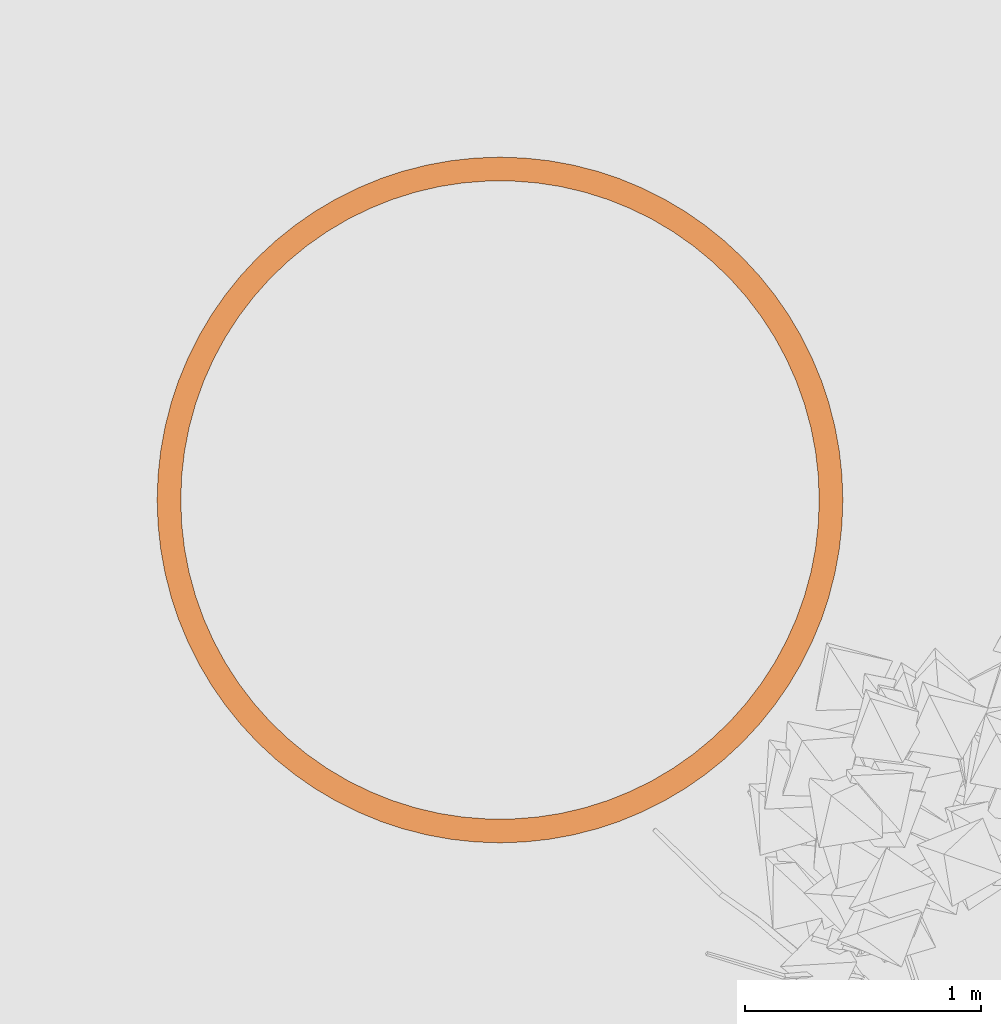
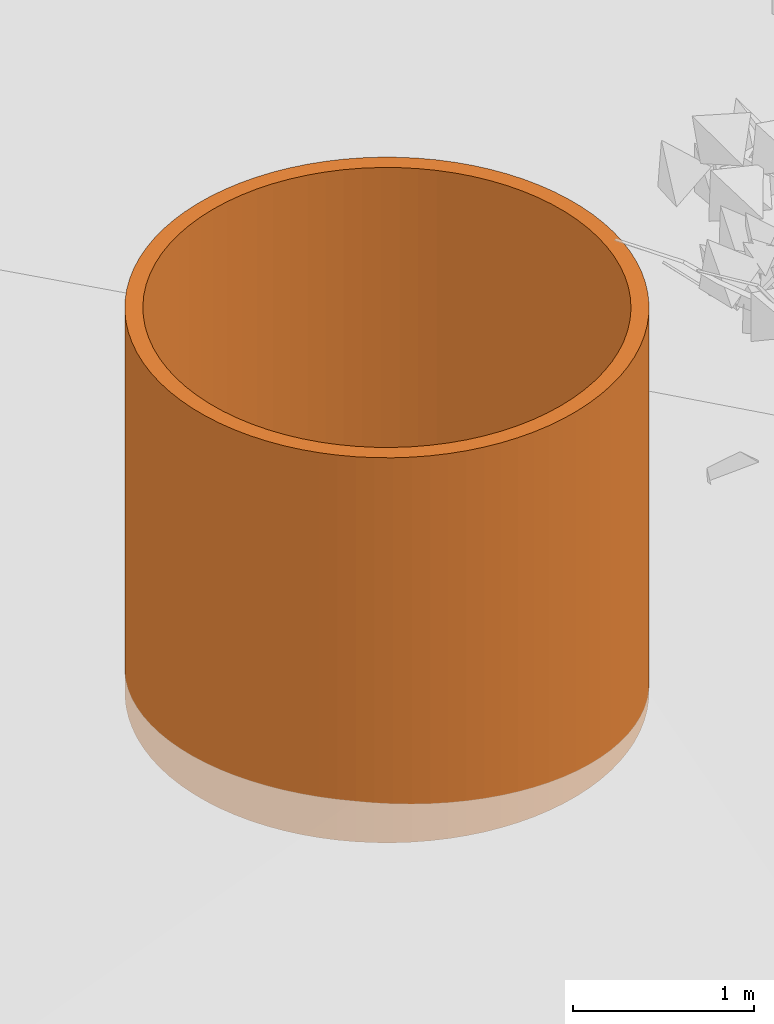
# One storey, part 239 of 246: 1 proxy.
"""IFC2X3 building model written with IfcOpenShell, lengths in millimetres."""

from ifc_helpers import new_model, entity, si_unit, converted_unit, derived_unit, money_unit, direction, frame, origin_with_axes, place, context, subcontext, project, spatial, faceted_brep, material, type_object, element, save


model = new_model("IFC2X3")

# Units and contexts
model_context = context("Model", 3, precision=0.01, world=origin_with_axes(), true_north=direction((0.0, 1.0)))
body_context = subcontext(model_context, "Body", "Model", "MODEL_VIEW")
ifc_project = project(units=[si_unit("LENGTHUNIT", "METRE", prefix="MILLI"), si_unit("AREAUNIT", "SQUARE_METRE"), si_unit("VOLUMEUNIT", "CUBIC_METRE"), converted_unit("PLANEANGLEUNIT", "DEGREE", entity("IfcPlaneAngleMeasure", 0.0174532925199), si_unit("PLANEANGLEUNIT", "RADIAN"), dimensions=[0, 0, 0, 0, 0, 0, 0]), si_unit("SOLIDANGLEUNIT", "STERADIAN"), money_unit("EUR"), converted_unit("TIMEUNIT", "Year", entity("IfcTimeMeasure", 31556926.0), si_unit("TIMEUNIT", "SECOND"), dimensions=[0, 0, 1, 0, 0, 0, 0]), si_unit("MASSUNIT", "GRAM", prefix="KILO"), si_unit("THERMODYNAMICTEMPERATUREUNIT", "DEGREE_CELSIUS"), si_unit("LUMINOUSINTENSITYUNIT", "LUMEN"), si_unit("ENERGYUNIT", "JOULE", prefix="MEGA"), derived_unit("THERMALCONDUCTANCEUNIT", [(si_unit("POWERUNIT", "WATT"), 1), (si_unit("LENGTHUNIT", "METRE"), -1), (si_unit("THERMODYNAMICTEMPERATUREUNIT", "KELVIN"), -1)]), derived_unit("SPECIFICHEATCAPACITYUNIT", [(si_unit("ENERGYUNIT", "JOULE"), 1), (si_unit("MASSUNIT", "GRAM", prefix="KILO"), -1), (si_unit("THERMODYNAMICTEMPERATUREUNIT", "KELVIN"), -1)]), derived_unit("MASSDENSITYUNIT", [(si_unit("MASSUNIT", "GRAM", prefix="KILO"), 1), (si_unit("VOLUMEUNIT", "CUBIC_METRE"), -1)])], contexts=[model_context])

# Site, building, storey
site_placement = place(None, origin_with_axes())
site = spatial("IfcSite", under=ifc_project, at=site_placement, Name="L.Koidula tn 11b", CompositionType="ELEMENT")
building_placement = place(site_placement, origin_with_axes())
building = spatial("IfcBuilding", under=site, at=building_placement, Name="Rakvere Riigigümnaasium", CompositionType="ELEMENT")
storey_placement = place(building_placement, origin_with_axes())
storey = spatial("IfcBuildingStorey", under=building, at=storey_placement, Name="1.korrus 0,00", CompositionType="ELEMENT", Elevation=0.0)

# Proxy
ifc_material = material(Name="Alumiiniumprofiil (RAL 7021)")
building_element_proxy_type = type_object("IfcBuildingElementProxyType", Name="Air Space D2900", PredefinedType="NOTDEFINED")
proxy_placement = place(storey_placement, frame((88335.994239, 27712.030434, 3019.39704526), z_axis=(0.0, 0.0, 1.0), x_axis=(1.0, 0.0, 0.0)))
element("IfcBuildingElementProxy", 1, at=proxy_placement, inside=storey, type_object=building_element_proxy_type, material=ifc_material, Name="Ventilatsiooni korsten", context=body_context, shape_type="Brep", body=[
    faceted_brep([(-1450.0, 0.0, 0.0), (-1446.30556618, -103.441815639, 0.0), (-1446.30556618, -103.441815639, 2600.0), (-1450.0, 0.0, 2600.0), (-1446.30556618, 103.441815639, 0.0), (-1435.24109073, 206.356515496, 0.0), (-1416.86295566, 308.219669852, 0.0), (-1391.26481174, 408.51220742, 0.0), (-1358.57710125, 506.723060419, 0.0), (-1318.96639326, 602.351768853, 0.0), (-1272.63453487, 694.911030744, 0.0), (-1219.81762261, 783.929185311, 0.0), (-1160.78479934, 868.952616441, 0.0), (-1095.83688281, 949.548064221, 0.0), (-1025.30483272, 1025.30483272, 0.0), (-949.548064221, 1095.83688281, 0.0), (-868.952616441, 1160.78479934, 0.0), (-783.929185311, 1219.81762261, 0.0), (-694.911030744, 1272.63453487, 0.0), (-602.351768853, 1318.96639326, 0.0), (-506.723060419, 1358.57710125, 0.0), (-408.51220742, 1391.26481174, 0.0), (-308.219669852, 1416.86295566, 0.0), (-206.356515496, 1435.24109073, 0.0), (-103.441815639, 1446.30556618, 0.0), (0.0, 1450.0, 0.0), (103.441815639, 1446.30556618, 0.0), (206.356515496, 1435.24109073, 0.0), (308.219669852, 1416.86295566, 0.0), (408.51220742, 1391.26481174, 0.0), (506.723060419, 1358.57710125, 0.0), (602.351768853, 1318.96639326, 0.0), (694.911030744, 1272.63453487, 0.0), (783.929185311, 1219.81762261, 0.0), (868.952616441, 1160.78479934, 0.0), (949.548064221, 1095.83688281, 0.0), (1025.30483272, 1025.30483272, 0.0), (1095.83688281, 949.548064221, 0.0), (1160.78479934, 868.952616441, 0.0), (1219.81762261, 783.929185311, 0.0), (1272.63453487, 694.911030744, 0.0), (1318.96639326, 602.351768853, 0.0), (1358.57710125, 506.723060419, 0.0), (1391.26481174, 408.51220742, 0.0), (1416.86295566, 308.219669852, 0.0), (1435.24109073, 206.356515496, 0.0), (1446.30556618, 103.441815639, 0.0), (1450.0, 0.0, 0.0), (1446.30556618, -103.441815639, 0.0), (1435.24109073, -206.356515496, 0.0), (1416.86295566, -308.219669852, 0.0), (1391.26481174, -408.51220742, 0.0), (1358.57710125, -506.723060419, 0.0), (1318.96639326, -602.351768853, 0.0), (1272.63453487, -694.911030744, 0.0), (1219.81762261, -783.929185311, 0.0), (1160.78479934, -868.952616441, 0.0), (1095.83688281, -949.548064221, 0.0), (1025.30483272, -1025.30483272, 0.0), (949.548064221, -1095.83688281, 0.0), (868.952616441, -1160.78479934, 0.0), (783.929185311, -1219.81762261, 0.0), (694.911030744, -1272.63453487, 0.0), (602.351768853, -1318.96639326, 0.0), (506.723060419, -1358.57710125, 0.0), (408.51220742, -1391.26481174, 0.0), (308.219669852, -1416.86295566, 0.0), (206.356515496, -1435.24109073, 0.0), (103.441815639, -1446.30556618, 0.0), (0.0, -1450.0, 0.0), (-103.441815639, -1446.30556618, 0.0), (-206.356515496, -1435.24109073, 0.0), (-308.219669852, -1416.86295566, 0.0), (-408.51220742, -1391.26481174, 0.0), (-506.723060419, -1358.57710125, 0.0), (-602.351768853, -1318.96639326, 0.0), (-694.911030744, -1272.63453487, 0.0), (-783.929185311, -1219.81762261, 0.0), (-868.952616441, -1160.78479934, 0.0), (-949.548064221, -1095.83688281, 0.0), (-1025.30483272, -1025.30483272, 0.0), (-1095.83688281, -949.548064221, 0.0), (-1160.78479934, -868.952616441, 0.0), (-1219.81762261, -783.929185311, 0.0), (-1272.63453487, -694.911030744, 0.0), (-1318.96639326, -602.351768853, 0.0), (-1358.57710125, -506.723060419, 0.0), (-1391.26481174, -408.51220742, 0.0), (-1416.86295566, -308.219669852, 0.0), (-1435.24109073, -206.356515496, 0.0), (-1350.0, 0.0, 0.0), (-1346.0388316, -103.341491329, 0.0), (-1334.1785721, -206.076533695, 0.0), (-1314.48882224, -307.602237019, 0.0), (-1287.08512927, -407.322808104, 0.0), (-1252.12830899, -504.653046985, 0.0), (-1209.8235019, -599.02178112, 0.0), (-1160.41896943, -689.875217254, 0.0), (-1104.20463704, -776.680191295, 0.0), (-1041.51039276, -858.927297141, 0.0), (-972.704151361, -936.13387607, 0.0), (-898.189695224, -1007.84684918, 0.0), (-818.404304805, -1073.64537622, 0.0), (-733.816192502, -1133.14332528, 0.0), (-644.921754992, -1185.99153873, 0.0), (-552.242660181, -1231.87988224, 0.0), (-456.322785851, -1270.53906477, 0.0), (-357.725027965, -1301.74221886, 0.0), (-257.027997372, -1325.306232, 0.0), (-154.822624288, -1341.09282118, 0.0), (-51.7086904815, -1349.00934442, 0.0), (51.7086904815, -1349.00934442, 0.0), (154.822624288, -1341.09282118, 0.0), (257.027997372, -1325.306232, 0.0), (357.725027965, -1301.74221886, 0.0), (456.322785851, -1270.53906477, 0.0), (552.242660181, -1231.87988224, 0.0), (644.921754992, -1185.99153873, 0.0), (733.816192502, -1133.14332528, 0.0), (818.404304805, -1073.64537622, 0.0), (898.189695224, -1007.84684918, 0.0), (972.704151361, -936.13387607, 0.0), (1041.51039276, -858.927297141, 0.0), (1104.20463704, -776.680191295, 0.0), (1160.41896943, -689.875217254, 0.0), (1209.8235019, -599.02178112, 0.0), (1252.12830899, -504.653046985, 0.0), (1287.08512927, -407.322808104, 0.0), (1314.48882224, -307.602237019, 0.0), (1334.1785721, -206.076533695, 0.0), (1346.0388316, -103.341491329, 0.0), (1350.0, 0.0, 0.0), (1346.0388316, 103.341491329, 0.0), (1334.1785721, 206.076533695, 0.0), (1314.48882224, 307.602237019, 0.0), (1287.08512927, 407.322808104, 0.0), (1252.12830899, 504.653046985, 0.0), (1209.8235019, 599.02178112, 0.0), (1160.41896943, 689.875217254, 0.0), (1104.20463704, 776.680191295, 0.0), (1041.51039276, 858.927297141, 0.0), (972.704151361, 936.13387607, 0.0), (898.189695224, 1007.84684918, 0.0), (818.404304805, 1073.64537622, 0.0), (733.816192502, 1133.14332528, 0.0), (644.921754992, 1185.99153873, 0.0), (552.242660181, 1231.87988224, 0.0), (456.322785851, 1270.53906477, 0.0), (357.725027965, 1301.74221886, 0.0), (257.027997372, 1325.306232, 0.0), (154.822624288, 1341.09282118, 0.0), (51.7086904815, 1349.00934442, 0.0), (-51.7086904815, 1349.00934442, 0.0), (-154.822624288, 1341.09282118, 0.0), (-257.027997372, 1325.306232, 0.0), (-357.725027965, 1301.74221886, 0.0), (-456.322785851, 1270.53906477, 0.0), (-552.242660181, 1231.87988224, 0.0), (-644.921754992, 1185.99153873, 0.0), (-733.816192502, 1133.14332528, 0.0), (-818.404304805, 1073.64537622, 0.0), (-898.189695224, 1007.84684918, 0.0), (-972.704151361, 936.13387607, 0.0), (-1041.51039276, 858.927297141, 0.0), (-1104.20463704, 776.680191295, 0.0), (-1160.41896943, 689.875217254, 0.0), (-1209.8235019, 599.02178112, 0.0), (-1252.12830899, 504.653046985, 0.0), (-1287.08512927, 407.322808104, 0.0), (-1314.48882224, 307.602237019, 0.0), (-1334.1785721, 206.076533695, 0.0), (-1346.0388316, 103.341491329, 0.0), (-1435.24109073, -206.356515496, 2600.0), (-1416.86295566, -308.219669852, 2600.0), (-1391.26481174, -408.51220742, 2600.0), (-1358.57710125, -506.723060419, 2600.0), (-1318.96639326, -602.351768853, 2600.0), (-1272.63453487, -694.911030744, 2600.0), (-1219.81762261, -783.929185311, 2600.0), (-1160.78479934, -868.952616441, 2600.0), (-1095.83688281, -949.548064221, 2600.0), (-1025.30483272, -1025.30483272, 2600.0), (-949.548064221, -1095.83688281, 2600.0), (-868.952616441, -1160.78479934, 2600.0), (-783.929185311, -1219.81762261, 2600.0), (-694.911030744, -1272.63453487, 2600.0), (-602.351768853, -1318.96639326, 2600.0), (-506.723060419, -1358.57710125, 2600.0), (-408.51220742, -1391.26481174, 2600.0), (-308.219669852, -1416.86295566, 2600.0), (-206.356515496, -1435.24109073, 2600.0), (-103.441815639, -1446.30556618, 2600.0), (0.0, -1450.0, 2600.0), (103.441815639, -1446.30556618, 2600.0), (206.356515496, -1435.24109073, 2600.0), (308.219669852, -1416.86295566, 2600.0), (408.51220742, -1391.26481174, 2600.0), (506.723060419, -1358.57710125, 2600.0), (602.351768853, -1318.96639326, 2600.0), (694.911030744, -1272.63453487, 2600.0), (783.929185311, -1219.81762261, 2600.0), (868.952616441, -1160.78479934, 2600.0), (949.548064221, -1095.83688281, 2600.0), (1025.30483272, -1025.30483272, 2600.0), (1095.83688281, -949.548064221, 2600.0), (1160.78479934, -868.952616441, 2600.0), (1219.81762261, -783.929185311, 2600.0), (1272.63453487, -694.911030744, 2600.0), (1318.96639326, -602.351768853, 2600.0), (1358.57710125, -506.723060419, 2600.0), (1391.26481174, -408.51220742, 2600.0), (1416.86295566, -308.219669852, 2600.0), (1435.24109073, -206.356515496, 2600.0), (1446.30556618, -103.441815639, 2600.0), (1450.0, 0.0, 2600.0), (1446.30556618, 103.441815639, 2600.0), (1435.24109073, 206.356515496, 2600.0), (1416.86295566, 308.219669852, 2600.0), (1391.26481174, 408.51220742, 2600.0), (1358.57710125, 506.723060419, 2600.0), (1318.96639326, 602.351768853, 2600.0), (1272.63453487, 694.911030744, 2600.0), (1219.81762261, 783.929185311, 2600.0), (1160.78479934, 868.952616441, 2600.0), (1095.83688281, 949.548064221, 2600.0), (1025.30483272, 1025.30483272, 2600.0), (949.548064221, 1095.83688281, 2600.0), (868.952616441, 1160.78479934, 2600.0), (783.929185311, 1219.81762261, 2600.0), (694.911030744, 1272.63453487, 2600.0), (602.351768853, 1318.96639326, 2600.0), (506.723060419, 1358.57710125, 2600.0), (408.51220742, 1391.26481174, 2600.0), (308.219669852, 1416.86295566, 2600.0), (206.356515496, 1435.24109073, 2600.0), (103.441815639, 1446.30556618, 2600.0), (0.0, 1450.0, 2600.0), (-103.441815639, 1446.30556618, 2600.0), (-206.356515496, 1435.24109073, 2600.0), (-308.219669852, 1416.86295566, 2600.0), (-408.51220742, 1391.26481174, 2600.0), (-506.723060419, 1358.57710125, 2600.0), (-602.351768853, 1318.96639326, 2600.0), (-694.911030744, 1272.63453487, 2600.0), (-783.929185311, 1219.81762261, 2600.0), (-868.952616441, 1160.78479934, 2600.0), (-949.548064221, 1095.83688281, 2600.0), (-1025.30483272, 1025.30483272, 2600.0), (-1095.83688281, 949.548064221, 2600.0), (-1160.78479934, 868.952616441, 2600.0), (-1219.81762261, 783.929185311, 2600.0), (-1272.63453487, 694.911030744, 2600.0), (-1318.96639326, 602.351768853, 2600.0), (-1358.57710125, 506.723060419, 2600.0), (-1391.26481174, 408.51220742, 2600.0), (-1416.86295566, 308.219669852, 2600.0), (-1435.24109073, 206.356515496, 2600.0), (-1446.30556618, 103.441815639, 2600.0), (-1350.0, 0.0, 2600.0), (-1346.0388316, 103.341491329, 2600.0), (-1334.1785721, 206.076533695, 2600.0), (-1314.48882224, 307.602237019, 2600.0), (-1287.08512927, 407.322808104, 2600.0), (-1252.12830899, 504.653046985, 2600.0), (-1209.8235019, 599.02178112, 2600.0), (-1160.41896943, 689.875217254, 2600.0), (-1104.20463704, 776.680191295, 2600.0), (-1041.51039276, 858.927297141, 2600.0), (-972.704151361, 936.13387607, 2600.0), (-898.189695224, 1007.84684918, 2600.0), (-818.404304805, 1073.64537622, 2600.0), (-733.816192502, 1133.14332528, 2600.0), (-644.921754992, 1185.99153873, 2600.0), (-552.242660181, 1231.87988224, 2600.0), (-456.322785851, 1270.53906477, 2600.0), (-357.725027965, 1301.74221886, 2600.0), (-257.027997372, 1325.306232, 2600.0), (-154.822624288, 1341.09282118, 2600.0), (-51.7086904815, 1349.00934442, 2600.0), (51.7086904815, 1349.00934442, 2600.0), (154.822624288, 1341.09282118, 2600.0), (257.027997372, 1325.306232, 2600.0), (357.725027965, 1301.74221886, 2600.0), (456.322785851, 1270.53906477, 2600.0), (552.242660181, 1231.87988224, 2600.0), (644.921754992, 1185.99153873, 2600.0), (733.816192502, 1133.14332528, 2600.0), (818.404304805, 1073.64537622, 2600.0), (898.189695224, 1007.84684918, 2600.0), (972.704151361, 936.13387607, 2600.0), (1041.51039276, 858.927297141, 2600.0), (1104.20463704, 776.680191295, 2600.0), (1160.41896943, 689.875217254, 2600.0), (1209.8235019, 599.02178112, 2600.0), (1252.12830899, 504.653046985, 2600.0), (1287.08512927, 407.322808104, 2600.0), (1314.48882224, 307.602237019, 2600.0), (1334.1785721, 206.076533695, 2600.0), (1346.0388316, 103.341491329, 2600.0), (1350.0, 0.0, 2600.0), (1346.0388316, -103.341491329, 2600.0), (1334.1785721, -206.076533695, 2600.0), (1314.48882224, -307.602237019, 2600.0), (1287.08512927, -407.322808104, 2600.0), (1252.12830899, -504.653046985, 2600.0), (1209.8235019, -599.02178112, 2600.0), (1160.41896943, -689.875217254, 2600.0), (1104.20463704, -776.680191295, 2600.0), (1041.51039276, -858.927297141, 2600.0), (972.704151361, -936.13387607, 2600.0), (898.189695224, -1007.84684918, 2600.0), (818.404304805, -1073.64537622, 2600.0), (733.816192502, -1133.14332528, 2600.0), (644.921754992, -1185.99153873, 2600.0), (552.242660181, -1231.87988224, 2600.0), (456.322785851, -1270.53906477, 2600.0), (357.725027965, -1301.74221886, 2600.0), (257.027997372, -1325.306232, 2600.0), (154.822624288, -1341.09282118, 2600.0), (51.7086904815, -1349.00934442, 2600.0), (-51.7086904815, -1349.00934442, 2600.0), (-154.822624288, -1341.09282118, 2600.0), (-257.027997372, -1325.306232, 2600.0), (-357.725027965, -1301.74221886, 2600.0), (-456.322785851, -1270.53906477, 2600.0), (-552.242660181, -1231.87988224, 2600.0), (-644.921754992, -1185.99153873, 2600.0), (-733.816192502, -1133.14332528, 2600.0), (-818.404304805, -1073.64537622, 2600.0), (-898.189695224, -1007.84684918, 2600.0), (-972.704151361, -936.13387607, 2600.0), (-1041.51039276, -858.927297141, 2600.0), (-1104.20463704, -776.680191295, 2600.0), (-1160.41896943, -689.875217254, 2600.0), (-1209.8235019, -599.02178112, 2600.0), (-1252.12830899, -504.653046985, 2600.0), (-1287.08512927, -407.322808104, 2600.0), (-1314.48882224, -307.602237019, 2600.0), (-1334.1785721, -206.076533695, 2600.0), (-1346.0388316, -103.341491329, 2600.0)], [[[0, 1, 2, 3]], [[0, 4, 5, 6, 7, 8, 9, 10, 11, 12, 13, 14, 15, 16, 17, 18, 19, 20, 21, 22, 23, 24, 25, 26, 27, 28, 29, 30, 31, 32, 33, 34, 35, 36, 37, 38, 39, 40, 41, 42, 43, 44, 45, 46, 47, 48, 49, 50, 51, 52, 53, 54, 55, 56, 57, 58, 59, 60, 61, 62, 63, 64, 65, 66, 67, 68, 69, 70, 71, 72, 73, 74, 75, 76, 77, 78, 79, 80, 81, 82, 83, 84, 85, 86, 87, 88, 89, 1], [90, 91, 92, 93, 94, 95, 96, 97, 98, 99, 100, 101, 102, 103, 104, 105, 106, 107, 108, 109, 110, 111, 112, 113, 114, 115, 116, 117, 118, 119, 120, 121, 122, 123, 124, 125, 126, 127, 128, 129, 130, 131, 132, 133, 134, 135, 136, 137, 138, 139, 140, 141, 142, 143, 144, 145, 146, 147, 148, 149, 150, 151, 152, 153, 154, 155, 156, 157, 158, 159, 160, 161, 162, 163, 164, 165, 166, 167, 168, 169, 170, 171]], [[1, 89, 172, 2]], [[3, 2, 172, 173, 174, 175, 176, 177, 178, 179, 180, 181, 182, 183, 184, 185, 186, 187, 188, 189, 190, 191, 192, 193, 194, 195, 196, 197, 198, 199, 200, 201, 202, 203, 204, 205, 206, 207, 208, 209, 210, 211, 212, 213, 214, 215, 216, 217, 218, 219, 220, 221, 222, 223, 224, 225, 226, 227, 228, 229, 230, 231, 232, 233, 234, 235, 236, 237, 238, 239, 240, 241, 242, 243, 244, 245, 246, 247, 248, 249, 250, 251, 252, 253, 254, 255, 256, 257], [258, 259, 260, 261, 262, 263, 264, 265, 266, 267, 268, 269, 270, 271, 272, 273, 274, 275, 276, 277, 278, 279, 280, 281, 282, 283, 284, 285, 286, 287, 288, 289, 290, 291, 292, 293, 294, 295, 296, 297, 298, 299, 300, 301, 302, 303, 304, 305, 306, 307, 308, 309, 310, 311, 312, 313, 314, 315, 316, 317, 318, 319, 320, 321, 322, 323, 324, 325, 326, 327, 328, 329, 330, 331, 332, 333, 334, 335, 336, 337, 338, 339]], [[4, 0, 3, 257]], [[5, 4, 257, 256]], [[6, 5, 256, 255]], [[7, 6, 255, 254]], [[8, 7, 254, 253]], [[9, 8, 253, 252]], [[10, 9, 252, 251]], [[11, 10, 251, 250]], [[12, 11, 250, 249]], [[13, 12, 249, 248]], [[14, 13, 248, 247]], [[15, 14, 247, 246]], [[16, 15, 246, 245]], [[17, 16, 245, 244]], [[18, 17, 244, 243]], [[19, 18, 243, 242]], [[20, 19, 242, 241]], [[21, 20, 241, 240]], [[22, 21, 240, 239]], [[23, 22, 239, 238]], [[24, 23, 238, 237]], [[25, 24, 237, 236]], [[26, 25, 236, 235]], [[27, 26, 235, 234]], [[28, 27, 234, 233]], [[29, 28, 233, 232]], [[30, 29, 232, 231]], [[31, 30, 231, 230]], [[32, 31, 230, 229]], [[33, 32, 229, 228]], [[34, 33, 228, 227]], [[35, 34, 227, 226]], [[36, 35, 226, 225]], [[37, 36, 225, 224]], [[38, 37, 224, 223]], [[39, 38, 223, 222]], [[40, 39, 222, 221]], [[41, 40, 221, 220]], [[42, 41, 220, 219]], [[43, 42, 219, 218]], [[44, 43, 218, 217]], [[45, 44, 217, 216]], [[46, 45, 216, 215]], [[47, 46, 215, 214]], [[48, 47, 214, 213]], [[49, 48, 213, 212]], [[50, 49, 212, 211]], [[51, 50, 211, 210]], [[52, 51, 210, 209]], [[53, 52, 209, 208]], [[54, 53, 208, 207]], [[55, 54, 207, 206]], [[56, 55, 206, 205]], [[57, 56, 205, 204]], [[58, 57, 204, 203]], [[59, 58, 203, 202]], [[60, 59, 202, 201]], [[61, 60, 201, 200]], [[62, 61, 200, 199]], [[63, 62, 199, 198]], [[64, 63, 198, 197]], [[65, 64, 197, 196]], [[66, 65, 196, 195]], [[67, 66, 195, 194]], [[68, 67, 194, 193]], [[69, 68, 193, 192]], [[70, 69, 192, 191]], [[71, 70, 191, 190]], [[72, 71, 190, 189]], [[73, 72, 189, 188]], [[74, 73, 188, 187]], [[75, 74, 187, 186]], [[76, 75, 186, 185]], [[77, 76, 185, 184]], [[78, 77, 184, 183]], [[79, 78, 183, 182]], [[80, 79, 182, 181]], [[81, 80, 181, 180]], [[82, 81, 180, 179]], [[83, 82, 179, 178]], [[84, 83, 178, 177]], [[85, 84, 177, 176]], [[86, 85, 176, 175]], [[87, 86, 175, 174]], [[88, 87, 174, 173]], [[89, 88, 173, 172]], [[91, 90, 258, 339]], [[92, 91, 339, 338]], [[93, 92, 338, 337]], [[94, 93, 337, 336]], [[95, 94, 336, 335]], [[96, 95, 335, 334]], [[97, 96, 334, 333]], [[98, 97, 333, 332]], [[99, 98, 332, 331]], [[100, 99, 331, 330]], [[101, 100, 330, 329]], [[102, 101, 329, 328]], [[103, 102, 328, 327]], [[104, 103, 327, 326]], [[105, 104, 326, 325]], [[106, 105, 325, 324]], [[107, 106, 324, 323]], [[108, 107, 323, 322]], [[109, 108, 322, 321]], [[110, 109, 321, 320]], [[111, 110, 320, 319]], [[112, 111, 319, 318]], [[113, 112, 318, 317]], [[114, 113, 317, 316]], [[115, 114, 316, 315]], [[116, 115, 315, 314]], [[117, 116, 314, 313]], [[118, 117, 313, 312]], [[119, 118, 312, 311]], [[120, 119, 311, 310]], [[121, 120, 310, 309]], [[122, 121, 309, 308]], [[123, 122, 308, 307]], [[124, 123, 307, 306]], [[125, 124, 306, 305]], [[126, 125, 305, 304]], [[127, 126, 304, 303]], [[128, 127, 303, 302]], [[129, 128, 302, 301]], [[130, 129, 301, 300]], [[131, 130, 300, 299]], [[132, 131, 299, 298]], [[133, 132, 298, 297]], [[134, 133, 297, 296]], [[135, 134, 296, 295]], [[136, 135, 295, 294]], [[137, 136, 294, 293]], [[138, 137, 293, 292]], [[139, 138, 292, 291]], [[140, 139, 291, 290]], [[141, 140, 290, 289]], [[142, 141, 289, 288]], [[143, 142, 288, 287]], [[144, 143, 287, 286]], [[145, 144, 286, 285]], [[146, 145, 285, 284]], [[147, 146, 284, 283]], [[148, 147, 283, 282]], [[149, 148, 282, 281]], [[150, 149, 281, 280]], [[151, 150, 280, 279]], [[152, 151, 279, 278]], [[153, 152, 278, 277]], [[154, 153, 277, 276]], [[155, 154, 276, 275]], [[156, 155, 275, 274]], [[157, 156, 274, 273]], [[158, 157, 273, 272]], [[159, 158, 272, 271]], [[160, 159, 271, 270]], [[161, 160, 270, 269]], [[162, 161, 269, 268]], [[163, 162, 268, 267]], [[164, 163, 267, 266]], [[165, 164, 266, 265]], [[166, 165, 265, 264]], [[167, 166, 264, 263]], [[168, 167, 263, 262]], [[169, 168, 262, 261]], [[170, 169, 261, 260]], [[171, 170, 260, 259]], [[90, 171, 259, 258]]]),
])

save(model, "model.ifc")
